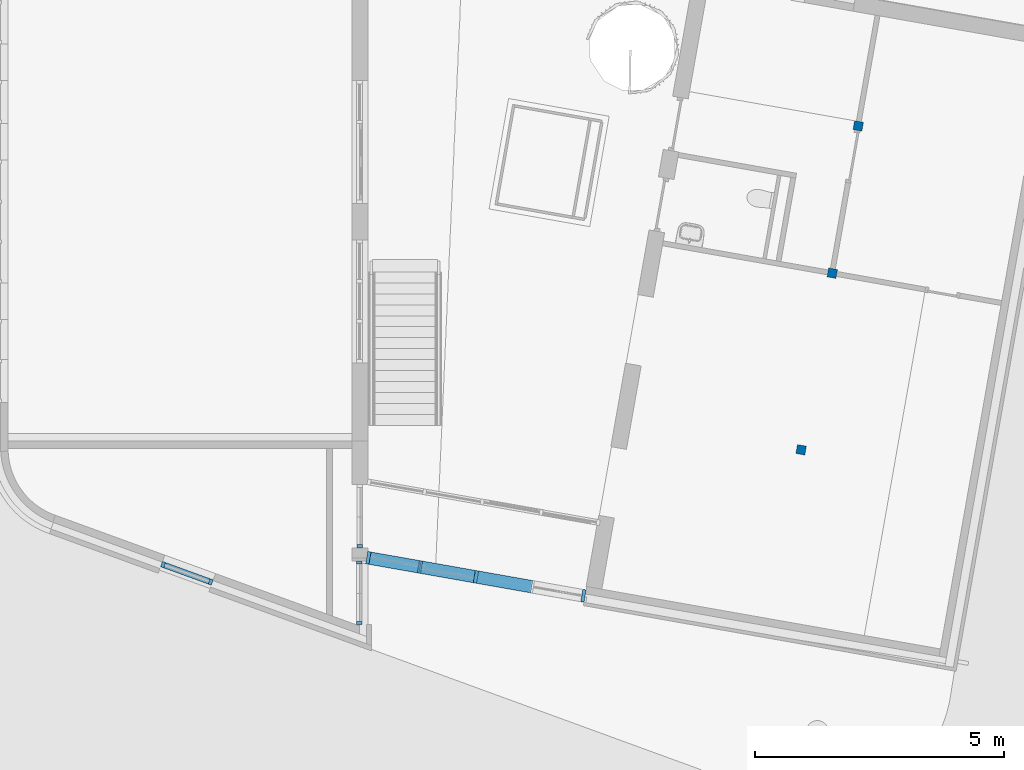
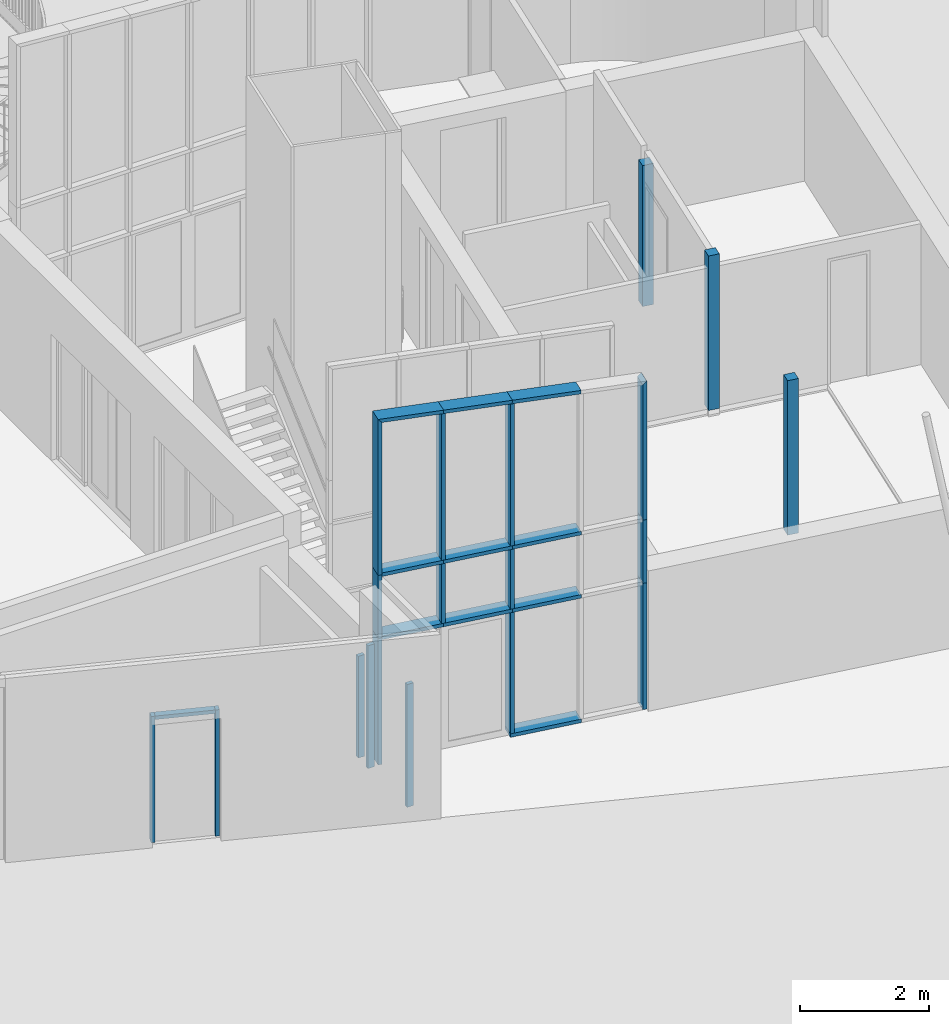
# One storey, part 1 of 21: 27 members, 3 columns, 4 elements without a shape of their own.
"""IFC2X3 building model written with IfcOpenShell, lengths in millimetres."""

from ifc_helpers import new_model, entity, si_unit, converted_unit, derived_unit, direction, frame, frame_2d, origin, origin_2d_with_axis, place, context, subcontext, project, spatial, polyline, rectangle, extrude, clip, halfspace, bounded_halfspace, source, transform, mapped, material, type_object, type_shapes, element, aggregate, save


model = new_model("IFC2X3")

# Units and contexts
model_context = context("Model", 3, precision=0.01, world=origin(), true_north=direction((6.12303176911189e-17, 1.0)))
body_context = subcontext(model_context, "Body", "Model", "MODEL_VIEW")
ifc_project = project(units=[si_unit("LENGTHUNIT", "METRE", prefix="MILLI"), si_unit("AREAUNIT", "SQUARE_METRE"), si_unit("VOLUMEUNIT", "CUBIC_METRE"), converted_unit("PLANEANGLEUNIT", "DEGREE", entity("IfcRatioMeasure", 0.0174532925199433), si_unit("PLANEANGLEUNIT", "RADIAN"), dimensions=[0, 0, 0, 0, 0, 0, 0]), si_unit("MASSUNIT", "GRAM", prefix="KILO"), derived_unit("MASSDENSITYUNIT", [(si_unit("MASSUNIT", "GRAM", prefix="KILO"), 1), (si_unit("LENGTHUNIT", "METRE"), -3)]), derived_unit("MOMENTOFINERTIAUNIT", [(si_unit("LENGTHUNIT", "METRE"), 4)]), si_unit("TIMEUNIT", "SECOND"), si_unit("FREQUENCYUNIT", "HERTZ"), si_unit("THERMODYNAMICTEMPERATUREUNIT", "DEGREE_CELSIUS"), derived_unit("THERMALTRANSMITTANCEUNIT", [(si_unit("MASSUNIT", "GRAM", prefix="KILO"), 1), (si_unit("THERMODYNAMICTEMPERATUREUNIT", "KELVIN"), -1), (si_unit("TIMEUNIT", "SECOND"), -3)]), derived_unit("VOLUMETRICFLOWRATEUNIT", [(si_unit("LENGTHUNIT", "METRE"), 3), (si_unit("TIMEUNIT", "SECOND"), -1)]), si_unit("ELECTRICCURRENTUNIT", "AMPERE"), si_unit("ELECTRICVOLTAGEUNIT", "VOLT"), si_unit("POWERUNIT", "WATT"), si_unit("FORCEUNIT", "NEWTON", prefix="KILO"), si_unit("ILLUMINANCEUNIT", "LUX"), si_unit("LUMINOUSFLUXUNIT", "LUMEN"), si_unit("LUMINOUSINTENSITYUNIT", "CANDELA"), derived_unit("USERDEFINED", [(si_unit("MASSUNIT", "GRAM", prefix="KILO"), -1), (si_unit("LENGTHUNIT", "METRE"), -2), (si_unit("TIMEUNIT", "SECOND"), 3), (si_unit("LUMINOUSFLUXUNIT", "LUMEN"), 1)]), derived_unit("LINEARVELOCITYUNIT", [(si_unit("LENGTHUNIT", "METRE"), 1), (si_unit("TIMEUNIT", "SECOND"), -1)]), si_unit("PRESSUREUNIT", "PASCAL"), derived_unit("USERDEFINED", [(si_unit("LENGTHUNIT", "METRE"), -2), (si_unit("MASSUNIT", "GRAM", prefix="KILO"), 1), (si_unit("TIMEUNIT", "SECOND"), -2)]), derived_unit("LINEARFORCEUNIT", [(si_unit("MASSUNIT", "GRAM", prefix="KILO"), 1), (si_unit("LENGTHUNIT", "METRE"), 1), (si_unit("TIMEUNIT", "SECOND"), -2), (si_unit("LENGTHUNIT", "METRE"), -1)]), derived_unit("PLANARFORCEUNIT", [(si_unit("MASSUNIT", "GRAM", prefix="KILO"), 1), (si_unit("LENGTHUNIT", "METRE"), 1), (si_unit("TIMEUNIT", "SECOND"), -2), (si_unit("LENGTHUNIT", "METRE"), -2)])], contexts=[model_context])

# Site, building, storey
site_placement = place(None, origin())
site = spatial("IfcSite", under=ifc_project, at=site_placement, Name="<Kadaster Gemeente>;<Kadaster nummer>;<Kadaster sectie>", CompositionType="ELEMENT")
building_placement = place(site_placement, origin())
building = spatial("IfcBuilding", under=site, at=building_placement, Name="JRCZ Middelburg", CompositionType="ELEMENT")
storey_placement = place(building_placement, origin())
storey = spatial("IfcBuildingStorey", under=building, at=storey_placement, Name="00 begane grond", CompositionType="ELEMENT", Elevation=0.0)

# Columns
ifc_material_1 = material(Name="Softwood, Lumber")
column_type_1 = type_object("IfcColumnType", Name="M_Timber-Column:180x180", PredefinedType="COLUMN", material=ifc_material_1)
shared_shape_1 = source(origin(), body_context, "Body", "SweptSolid", [
    extrude(rectangle(XDim=179.999999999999, YDim=180.0, at=frame_2d((-5.25801624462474e-13, -9.2370555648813e-14), x_axis=(1.0, 0.0))), frame((26065.8161517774, 9819.7630392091, 0.0), z_axis=(0.0, 0.0, 1.0), x_axis=(0.173648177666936, 0.984807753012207, 0.0)), (0.0, 0.0, 1.0), 2936.0),
])
type_shapes(column_type_1, [shared_shape_1])
column_1_placement = place(storey_placement, origin())
element("IfcColumn", 1, at=column_1_placement, inside=storey, type_object=column_type_1, material=ifc_material_1, Name="M_Timber-Column:180x180", ObjectType="M_Timber-Column:180x180", context=body_context, shape_type="MappedRepresentation", body=[
    mapped(shared_shape_1, transform((0.0, 0.0, 0.0), scale=1.0)),
])
column_type_2 = type_object("IfcColumnType", Name="M_Timber-Column:180x180", PredefinedType="COLUMN", material=ifc_material_1)
shared_shape_2 = source(origin(), body_context, "Body", "SweptSolid", [
    extrude(rectangle(XDim=179.999999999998, YDim=180.0, at=frame_2d((7.53175299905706e-13, -4.2632564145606e-12), x_axis=(1.0, 0.0))), frame((26690.9495913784, 13365.070950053, 0.0), z_axis=(0.0, 0.0, 1.0), x_axis=(0.173648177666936, 0.984807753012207, 0.0)), (0.0, 0.0, 1.0), 2936.0),
])
type_shapes(column_type_2, [shared_shape_2])
column_2_placement = place(storey_placement, origin())
element("IfcColumn", 2, at=column_2_placement, inside=storey, type_object=column_type_2, material=ifc_material_1, Name="M_Timber-Column:180x180", ObjectType="M_Timber-Column:180x180", context=body_context, shape_type="MappedRepresentation", body=[
    mapped(shared_shape_2, transform((0.0, 0.0, 0.0), scale=1.0)),
])
column_type_3 = type_object("IfcColumnType", Name="M_Timber-Column:180x180", PredefinedType="COLUMN", material=ifc_material_1)
shared_shape_3 = source(origin(), body_context, "Body", "SweptSolid", [
    extrude(rectangle(XDim=180.0, YDim=180.0, at=origin_2d_with_axis()), frame((0.0, 0.0, 0.0), z_axis=(0.0, 0.0, 1.0), x_axis=(0.0, -1.0, 0.0)), (0.0, 0.0, 1.0), 2680.0),
])
type_shapes(column_type_3, [shared_shape_3])
column_3_placement = place(storey_placement, frame((27211.8941243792, 16319.4942090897, 0.0), z_axis=(0.0, 0.0, 1.0), x_axis=(0.984807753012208, -0.173648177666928, 0.0)))
element("IfcColumn", 3, at=column_3_placement, inside=storey, type_object=column_type_3, material=ifc_material_1, Name="M_Timber-Column:180x180", ObjectType="M_Timber-Column:180x180", context=body_context, shape_type="MappedRepresentation", body=[
    mapped(shared_shape_3, transform((0.0, 0.0, 0.0), scale=1.0)),
])

# Curtain wall, members
curtain_wall_type_1 = type_object("IfcCurtainWallType", Name="Curtain Wall:vliesgevel A", PredefinedType="NOTDEFINED")
curtain_wall_1_placement = place(storey_placement, origin())
curtain_wall_1 = element("IfcCurtainWall", 4, at=curtain_wall_1_placement, inside=storey, type_object=curtain_wall_type_1, Name="Curtain Wall:vliesgevel A", ObjectType="Curtain Wall:vliesgevel A")
ifc_material_2 = material(Name="RBM_a_kozijn licht")
member_type_1 = type_object("IfcMemberType", Name="Rectangular Mullion:31_CWM_067x114 vliesgevel", PredefinedType="MULLION", material=ifc_material_2)
shared_shape_4 = source(origin(), body_context, "Body", "Clipping", [
    clip(extrude(rectangle(XDim=250.0, YDim=67.0, at=origin_2d_with_axis()), frame((-33.5, -57.0, -1088.68658802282), z_axis=(0.0, 0.0, 1.0), x_axis=(0.0, -1.0, 0.0)), (0.0, 0.0, 1.0), 1088.68658802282), halfspace(frame((0.0, -304.8, 0.0), z_axis=(-0.733072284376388, 0.0, 0.680150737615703), x_axis=(-0.680150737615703, 0.0, -0.733072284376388)), False)),
])
type_shapes(member_type_1, [shared_shape_4])
member_1_placement = place(storey_placement, frame((17357.3594801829, 7712.96365390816, 6564.57479505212), z_axis=(-0.982049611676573, 0.173161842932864, 0.0747899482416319), x_axis=(0.0736537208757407, -0.0129871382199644, 0.997199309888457)))
member_1 = element("IfcMember", 5, at=member_1_placement, type_object=member_type_1, material=ifc_material_2, Name="Rectangular Mullion:31_CWM_067x114 vliesgevel", ObjectType="Rectangular Mullion:31_CWM_067x114 vliesgevel", context=body_context, shape_type="MappedRepresentation", body=[
    mapped(shared_shape_4, transform((0.0, 0.0, 0.0), scale=1.0)),
])
member_type_2 = type_object("IfcMemberType", Name="Rectangular Mullion:31_CWM_067x114 vliesgevel", PredefinedType="MULLION", material=ifc_material_2)
shared_shape_5 = source(origin(), body_context, "Body", "SweptSolid", [
    extrude(rectangle(XDim=250.0, YDim=67.0, at=origin_2d_with_axis()), frame((-33.5, -57.0, -2400.0), z_axis=(0.0, 0.0, 1.0), x_axis=(0.0, -1.0, 0.0)), (0.0, 0.0, 1.0), 2400.0),
])
type_shapes(member_type_2, [shared_shape_5])
member_2_placement = place(storey_placement, frame((17357.3594801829, 7712.96365390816, 0.0), z_axis=(0.0, 0.0, -1.0), x_axis=(-0.984807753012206, 0.173648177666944, 0.0)))
member_2 = element("IfcMember", 6, at=member_2_placement, type_object=member_type_2, material=ifc_material_2, Name="Rectangular Mullion:31_CWM_067x114 vliesgevel", ObjectType="Rectangular Mullion:31_CWM_067x114 vliesgevel", context=body_context, shape_type="MappedRepresentation", body=[
    mapped(shared_shape_5, transform((0.0, 0.0, 0.0), scale=1.0)),
])
member_type_3 = type_object("IfcMemberType", Name="Rectangular Mullion:31_CWM_067x114 vliesgevel", PredefinedType="MULLION", material=ifc_material_2)
shared_shape_6 = source(origin(), body_context, "Body", "Clipping", [
    clip(extrude(rectangle(XDim=250.0, YDim=67.0, at=origin_2d_with_axis()), frame((-33.5, -57.0, -2630.80126207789), z_axis=(0.0, 0.0, 1.0), x_axis=(0.0, -1.0, 0.0)), (0.0, 0.0, 1.0), 2630.80126207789), halfspace(frame((0.0, -304.8, 0.0), z_axis=(-0.680150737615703, 0.0, 0.733072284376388), x_axis=(-0.733072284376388, 0.0, -0.680150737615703)), False)),
])
type_shapes(member_type_3, [shared_shape_6])
member_3_placement = place(storey_placement, frame((21740.0629871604, 6940.17477718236, 6230.80126207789), z_axis=(0.0, 0.0, 1.0), x_axis=(0.984807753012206, -0.173648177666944, 0.0)))
member_3 = element("IfcMember", 7, at=member_3_placement, type_object=member_type_3, material=ifc_material_2, Name="Rectangular Mullion:31_CWM_067x114 vliesgevel", ObjectType="Rectangular Mullion:31_CWM_067x114 vliesgevel", context=body_context, shape_type="MappedRepresentation", body=[
    mapped(shared_shape_6, transform((0.0, 0.0, 0.0), scale=1.0)),
])
member_type_4 = type_object("IfcMemberType", Name="Rectangular Mullion:31_CWM_067x114 vliesgevel", PredefinedType="MULLION", material=ifc_material_2)
shared_shape_7 = source(origin(), body_context, "Body", "SweptSolid", [
    extrude(rectangle(XDim=250.0, YDim=67.0, at=origin_2d_with_axis()), frame((-33.5, -57.0, -1142.75926748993), z_axis=(0.0, 0.0, 1.0), x_axis=(0.0, -1.0, 0.0)), (0.0, 0.0, 1.0), 1142.75926748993),
])
type_shapes(member_type_4, [shared_shape_7])
member_4_placement = place(storey_placement, frame((19548.7500160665, 7326.56237716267, 6397.68507501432), z_axis=(-0.982049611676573, 0.173161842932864, 0.0747899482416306), x_axis=(0.0736537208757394, -0.0129871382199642, 0.997199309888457)))
member_4 = element("IfcMember", 8, at=member_4_placement, type_object=member_type_4, material=ifc_material_2, Name="Rectangular Mullion:31_CWM_067x114 vliesgevel", ObjectType="Rectangular Mullion:31_CWM_067x114 vliesgevel", context=body_context, shape_type="MappedRepresentation", body=[
    mapped(shared_shape_7, transform((0.0, 0.0, 0.0), scale=1.0)),
])
member_type_5 = type_object("IfcMemberType", Name="Rectangular Mullion:31_CWM_067x114 vliesgevel", PredefinedType="MULLION", material=ifc_material_2)
shared_shape_8 = source(origin(), body_context, "Body", "SweptSolid", [
    extrude(rectangle(XDim=250.0, YDim=67.0, at=origin_2d_with_axis()), frame((0.0, -57.0, -2299.5), z_axis=(0.0, 0.0, 1.0), x_axis=(0.0, -1.0, 0.0)), (0.0, 0.0, 1.0), 2299.5),
])
type_shapes(member_type_5, [shared_shape_8])
member_5_placement = place(storey_placement, frame((19548.7500160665, 7326.56237716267, 67.0), z_axis=(0.0, 0.0, -1.0), x_axis=(-0.984807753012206, 0.173648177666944, 0.0)))
member_5 = element("IfcMember", 9, at=member_5_placement, type_object=member_type_5, material=ifc_material_2, Name="Rectangular Mullion:31_CWM_067x114 vliesgevel", ObjectType="Rectangular Mullion:31_CWM_067x114 vliesgevel", context=body_context, shape_type="MappedRepresentation", body=[
    mapped(shared_shape_8, transform((0.0, 0.0, 0.0), scale=1.0)),
])
member_type_6 = type_object("IfcMemberType", Name="Rectangular Mullion:31_CWM_067x114 vliesgevel", PredefinedType="MULLION", material=ifc_material_2)
shared_shape_9 = source(origin(), body_context, "Body", "SweptSolid", [
    extrude(rectangle(XDim=250.0, YDim=67.0, at=origin_2d_with_axis()), frame((-33.5, -57.0, -1142.75926748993), z_axis=(0.0, 0.0, 1.0), x_axis=(0.0, -1.0, 0.0)), (0.0, 0.0, 1.0), 1142.75926748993),
])
type_shapes(member_type_6, [shared_shape_9])
member_6_placement = place(storey_placement, frame((18426.5037211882, 7524.44467794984, 6483.15198148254), z_axis=(-0.982049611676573, 0.173161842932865, 0.0747899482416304), x_axis=(0.0736537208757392, -0.0129871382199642, 0.997199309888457)))
member_6 = element("IfcMember", 10, at=member_6_placement, type_object=member_type_6, material=ifc_material_2, Name="Rectangular Mullion:31_CWM_067x114 vliesgevel", ObjectType="Rectangular Mullion:31_CWM_067x114 vliesgevel", context=body_context, shape_type="MappedRepresentation", body=[
    mapped(shared_shape_9, transform((0.0, 0.0, 0.0), scale=1.0)),
])
member_type_7 = type_object("IfcMemberType", Name="Rectangular Mullion:31_CWM_067x114 vliesgevel", PredefinedType="MULLION", material=ifc_material_2)
shared_shape_10 = source(origin(), body_context, "Body", "SweptSolid", [
    extrude(rectangle(XDim=250.0, YDim=67.0, at=origin_2d_with_axis()), frame((-33.5, -57.0, -1173.05875290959), z_axis=(0.0, 0.0, 1.0), x_axis=(0.0, -1.0, 0.0)), (0.0, 0.0, 1.0), 1173.05875290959),
])
type_shapes(member_type_7, [shared_shape_10])
member_7_placement = place(storey_placement, frame((20670.9963109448, 7128.68007637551, 0.0), z_axis=(0.984807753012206, -0.173648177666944, 0.0), x_axis=(0.0, 0.0, -1.0)))
member_7 = element("IfcMember", 11, at=member_7_placement, type_object=member_type_7, material=ifc_material_2, Name="Rectangular Mullion:31_CWM_067x114 vliesgevel", ObjectType="Rectangular Mullion:31_CWM_067x114 vliesgevel", context=body_context, shape_type="MappedRepresentation", body=[
    mapped(shared_shape_10, transform((0.0, 0.0, 0.0), scale=1.0)),
])
member_type_8 = type_object("IfcMemberType", Name="Rectangular Mullion:31_CWM_067x114 vliesgevel", PredefinedType="MULLION", material=ifc_material_2)
shared_shape_11 = source(origin(), body_context, "Body", "SweptSolid", [
    extrude(rectangle(XDim=250.0, YDim=67.0, at=origin_2d_with_axis()), frame((-33.5, -57.0, -1200.0), z_axis=(0.0, 0.0, 1.0), x_axis=(0.0, -1.0, 0.0)), (0.0, 0.0, 1.0), 1200.0),
])
type_shapes(member_type_8, [shared_shape_11])
member_8_placement = place(storey_placement, frame((17357.3594801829, 7712.96365390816, 2400.0), z_axis=(0.0, 0.0, -1.0), x_axis=(-0.984807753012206, 0.173648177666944, 0.0)))
member_8 = element("IfcMember", 12, at=member_8_placement, type_object=member_type_8, material=ifc_material_2, Name="Rectangular Mullion:31_CWM_067x114 vliesgevel", ObjectType="Rectangular Mullion:31_CWM_067x114 vliesgevel", context=body_context, shape_type="MappedRepresentation", body=[
    mapped(shared_shape_11, transform((0.0, 0.0, 0.0), scale=1.0)),
])
member_type_9 = type_object("IfcMemberType", Name="Rectangular Mullion:31_CWM_067x114 vliesgevel", PredefinedType="MULLION", material=ifc_material_2)
shared_shape_12 = source(origin(), body_context, "Body", "SweptSolid", [
    extrude(rectangle(XDim=250.0, YDim=67.0, at=origin_2d_with_axis()), frame((-33.5, -57.0, -2400.0), z_axis=(0.0, 0.0, 1.0), x_axis=(0.0, -1.0, 0.0)), (0.0, 0.0, 1.0), 2400.0),
])
type_shapes(member_type_9, [shared_shape_12])
member_9_placement = place(storey_placement, frame((21740.0629871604, 6940.17477718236, 2400.0), z_axis=(0.0, 0.0, 1.0), x_axis=(0.984807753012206, -0.173648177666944, 0.0)))
member_9 = element("IfcMember", 13, at=member_9_placement, type_object=member_type_9, material=ifc_material_2, Name="Rectangular Mullion:31_CWM_067x114 vliesgevel", ObjectType="Rectangular Mullion:31_CWM_067x114 vliesgevel", context=body_context, shape_type="MappedRepresentation", body=[
    mapped(shared_shape_12, transform((0.0, 0.0, 0.0), scale=1.0)),
])
member_type_10 = type_object("IfcMemberType", Name="Rectangular Mullion:31_CWM_067x114 vliesgevel", PredefinedType="MULLION", material=ifc_material_2)
shared_shape_13 = source(origin(), body_context, "Body", "SweptSolid", [
    extrude(rectangle(XDim=250.0, YDim=67.0, at=origin_2d_with_axis()), frame((0.0, -57.0, -1139.55875290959), z_axis=(0.0, 0.0, 1.0), x_axis=(0.0, -1.0, 0.0)), (0.0, 0.0, 1.0), 1139.55875290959),
])
type_shapes(member_type_10, [shared_shape_13])
member_10_placement = place(storey_placement, frame((19548.7500160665, 7326.56237716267, 2400.0), z_axis=(-0.984807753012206, 0.173648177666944, 0.0), x_axis=(0.0, 0.0, 1.0)))
member_10 = element("IfcMember", 14, at=member_10_placement, type_object=member_type_10, material=ifc_material_2, Name="Rectangular Mullion:31_CWM_067x114 vliesgevel", ObjectType="Rectangular Mullion:31_CWM_067x114 vliesgevel", context=body_context, shape_type="MappedRepresentation", body=[
    mapped(shared_shape_13, transform((0.0, 0.0, 0.0), scale=1.0)),
])
member_11_placement = place(storey_placement, frame((18426.5037211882, 7524.44467794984, 2400.0), z_axis=(-0.984807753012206, 0.173648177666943, 0.0), x_axis=(0.0, 0.0, 1.0)))
member_11 = element("IfcMember", 15, at=member_11_placement, type_object=member_type_10, material=ifc_material_2, Name="Rectangular Mullion:31_CWM_067x114 vliesgevel", ObjectType="Rectangular Mullion:31_CWM_067x114 vliesgevel", context=body_context, shape_type="MappedRepresentation", body=[
    mapped(shared_shape_13, transform((0.0, 0.0, 0.0), scale=1.0)),
])
member_12_placement = place(storey_placement, frame((19548.7500160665, 7326.56237716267, 3600.0), z_axis=(-0.984807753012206, 0.173648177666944, 0.0), x_axis=(0.0, 0.0, 1.0)))
member_12 = element("IfcMember", 16, at=member_12_placement, type_object=member_type_10, material=ifc_material_2, Name="Rectangular Mullion:31_CWM_067x114 vliesgevel", ObjectType="Rectangular Mullion:31_CWM_067x114 vliesgevel", context=body_context, shape_type="MappedRepresentation", body=[
    mapped(shared_shape_13, transform((0.0, 0.0, 0.0), scale=1.0)),
])
member_13_placement = place(storey_placement, frame((18426.5037211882, 7524.44467794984, 3600.0), z_axis=(-0.984807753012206, 0.173648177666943, 0.0), x_axis=(0.0, 0.0, 1.0)))
member_13 = element("IfcMember", 17, at=member_13_placement, type_object=member_type_10, material=ifc_material_2, Name="Rectangular Mullion:31_CWM_067x114 vliesgevel", ObjectType="Rectangular Mullion:31_CWM_067x114 vliesgevel", context=body_context, shape_type="MappedRepresentation", body=[
    mapped(shared_shape_13, transform((0.0, 0.0, 0.0), scale=1.0)),
])
member_type_11 = type_object("IfcMemberType", Name="Rectangular Mullion:31_CWM_067x114 vliesgevel", PredefinedType="MULLION", material=ifc_material_2)
shared_shape_14 = source(origin(), body_context, "Body", "SweptSolid", [
    extrude(rectangle(XDim=250.0, YDim=67.0, at=frame_2d((-3.5527136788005e-14, 0.0), x_axis=(1.0, 0.0))), frame((0.0, -57.0, -1018.63751426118), z_axis=(0.0, 0.0, 1.0), x_axis=(0.0, -1.0, 0.0)), (0.0, 0.0, 1.0), 1018.63751426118),
])
type_shapes(member_type_11, [shared_shape_14])
member_14_placement = place(storey_placement, frame((17423.3415996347, 7701.32922600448, 2400.0), z_axis=(-0.984807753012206, 0.173648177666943, 0.0), x_axis=(0.0, 0.0, 1.0)))
member_14 = element("IfcMember", 18, at=member_14_placement, type_object=member_type_11, material=ifc_material_2, Name="Rectangular Mullion:31_CWM_067x114 vliesgevel", ObjectType="Rectangular Mullion:31_CWM_067x114 vliesgevel", context=body_context, shape_type="MappedRepresentation", body=[
    mapped(shared_shape_14, transform((0.0, 0.0, 0.0), scale=1.0)),
])
member_15_placement = place(storey_placement, frame((17423.3415996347, 7701.32922600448, 3600.0), z_axis=(-0.984807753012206, 0.173648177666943, 0.0), x_axis=(0.0, 0.0, 1.0)))
member_15 = element("IfcMember", 19, at=member_15_placement, type_object=member_type_11, material=ifc_material_2, Name="Rectangular Mullion:31_CWM_067x114 vliesgevel", ObjectType="Rectangular Mullion:31_CWM_067x114 vliesgevel", context=body_context, shape_type="MappedRepresentation", body=[
    mapped(shared_shape_14, transform((0.0, 0.0, 0.0), scale=1.0)),
])
member_type_12 = type_object("IfcMemberType", Name="Rectangular Mullion:31_CWM_067x114 vliesgevel", PredefinedType="MULLION", material=ifc_material_2)
shared_shape_15 = source(origin(), body_context, "Body", "SweptSolid", [
    extrude(rectangle(XDim=250.0, YDim=67.0, at=origin_2d_with_axis()), frame((0.0, -57.0, -1133.0), z_axis=(0.0, 0.0, 1.0), x_axis=(0.0, -1.0, 0.0)), (0.0, 0.0, 1.0), 1133.0),
])
type_shapes(member_type_12, [shared_shape_15])
member_16_placement = place(storey_placement, frame((19548.7500160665, 7326.56237716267, 2433.5), z_axis=(0.0, 0.0, -1.0), x_axis=(-0.984807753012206, 0.173648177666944, 0.0)))
member_16 = element("IfcMember", 20, at=member_16_placement, type_object=member_type_12, material=ifc_material_2, Name="Rectangular Mullion:31_CWM_067x114 vliesgevel", ObjectType="Rectangular Mullion:31_CWM_067x114 vliesgevel", context=body_context, shape_type="MappedRepresentation", body=[
    mapped(shared_shape_15, transform((0.0, 0.0, 0.0), scale=1.0)),
])
member_17_placement = place(storey_placement, frame((18426.5037211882, 7524.44467794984, 2433.5), z_axis=(0.0, 0.0, -1.0), x_axis=(-0.984807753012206, 0.173648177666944, 0.0)))
member_17 = element("IfcMember", 21, at=member_17_placement, type_object=member_type_12, material=ifc_material_2, Name="Rectangular Mullion:31_CWM_067x114 vliesgevel", ObjectType="Rectangular Mullion:31_CWM_067x114 vliesgevel", context=body_context, shape_type="MappedRepresentation", body=[
    mapped(shared_shape_15, transform((0.0, 0.0, 0.0), scale=1.0)),
])
member_type_13 = type_object("IfcMemberType", Name="Rectangular Mullion:31_CWM_067x114 vliesgevel", PredefinedType="MULLION", material=ifc_material_2)
shared_shape_16 = source(origin(), body_context, "Body", "Clipping", [
    clip(extrude(rectangle(XDim=250.0, YDim=67.0, at=origin_2d_with_axis()), frame((-33.5, -57.0, -2964.57479505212), z_axis=(0.0, 0.0, 1.0), x_axis=(0.0, -1.0, 0.0)), (0.0, 0.0, 1.0), 2964.57479505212), halfspace(frame((0.0, -304.8, -2964.57479505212), z_axis=(-0.733072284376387, 0.0, -0.680150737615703), x_axis=(-0.680150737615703, 0.0, 0.733072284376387)), False)),
])
type_shapes(member_type_13, [shared_shape_16])
member_18_placement = place(storey_placement, frame((17357.3594801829, 7712.96365390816, 3600.0), z_axis=(0.0, 0.0, -1.0), x_axis=(-0.984807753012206, 0.173648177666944, 0.0)))
member_18 = element("IfcMember", 22, at=member_18_placement, type_object=member_type_13, material=ifc_material_2, Name="Rectangular Mullion:31_CWM_067x114 vliesgevel", ObjectType="Rectangular Mullion:31_CWM_067x114 vliesgevel", context=body_context, shape_type="MappedRepresentation", body=[
    mapped(shared_shape_16, transform((0.0, 0.0, 0.0), scale=1.0)),
])
member_type_14 = type_object("IfcMemberType", Name="Rectangular Mullion:31_CWM_067x114 vliesgevel", PredefinedType="MULLION", material=ifc_material_2)
shared_shape_17 = source(origin(), body_context, "Body", "SweptSolid", [
    extrude(rectangle(XDim=250.0, YDim=67.0, at=origin_2d_with_axis()), frame((-33.5, -57.0, -1200.0), z_axis=(0.0, 0.0, 1.0), x_axis=(0.0, -1.0, 0.0)), (0.0, 0.0, 1.0), 1200.0),
])
type_shapes(member_type_14, [shared_shape_17])
member_19_placement = place(storey_placement, frame((21740.0629871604, 6940.17477718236, 3600.0), z_axis=(0.0, 0.0, 1.0), x_axis=(0.984807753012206, -0.173648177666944, 0.0)))
member_19 = element("IfcMember", 23, at=member_19_placement, type_object=member_type_14, material=ifc_material_2, Name="Rectangular Mullion:31_CWM_067x114 vliesgevel", ObjectType="Rectangular Mullion:31_CWM_067x114 vliesgevel", context=body_context, shape_type="MappedRepresentation", body=[
    mapped(shared_shape_17, transform((0.0, 0.0, 0.0), scale=1.0)),
])
member_type_15 = type_object("IfcMemberType", Name="Rectangular Mullion:31_CWM_067x114 vliesgevel", PredefinedType="MULLION", material=ifc_material_2)
shared_shape_18 = source(origin(), body_context, "Body", "Clipping", [
    clip(clip(extrude(rectangle(XDim=250.0, YDim=67.0, at=origin_2d_with_axis()), frame((0.0, -57.0, -2699.50940176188), z_axis=(0.0, 0.0, 1.0), x_axis=(0.0, -1.0, 0.0)), (0.0, 0.0, 1.0), 2699.50940176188), bounded_halfspace(frame((1144.56967944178, 68.0, -2782.83962772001), z_axis=(-0.0747899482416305, 0.0, -0.997199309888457), x_axis=(-0.997199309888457, 0.0, 0.0747899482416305)), False, frame((0.0, -57.0, -2699.50940176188), z_axis=(0.0, 0.0, 1.0), x_axis=(0.0, -1.0, 0.0)), polyline([(-125.0, 33.5), (125.0, 33.5), (125.0, 5.01092653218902), (-125.0, 5.01092653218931), (-125.0, 33.5)]))), bounded_halfspace(frame((5.01092653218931, 68.0, -2697.3727212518), z_axis=(-0.0747899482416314, 0.0, -0.997199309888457), x_axis=(-0.997199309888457, 0.0, 0.0747899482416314)), False, frame((0.0, -57.0, -2699.50940176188), z_axis=(0.0, 0.0, 1.0), x_axis=(0.0, -1.0, 0.0)), polyline([(125.0, 5.01092653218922), (125.0, -33.5), (-125.0, -33.5), (-125.0, 5.01092653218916), (125.0, 5.01092653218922)]))),
])
type_shapes(member_type_15, [shared_shape_18])
member_20_placement = place(storey_placement, frame((19548.7500160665, 7326.56237716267, 3633.5), z_axis=(0.0, 0.0, -1.0), x_axis=(-0.984807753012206, 0.173648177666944, 0.0)))
member_20 = element("IfcMember", 24, at=member_20_placement, type_object=member_type_15, material=ifc_material_2, Name="Rectangular Mullion:31_CWM_067x114 vliesgevel", ObjectType="Rectangular Mullion:31_CWM_067x114 vliesgevel", context=body_context, shape_type="MappedRepresentation", body=[
    mapped(shared_shape_18, transform((0.0, 0.0, 0.0), scale=1.0)),
])
member_type_16 = type_object("IfcMemberType", Name="Rectangular Mullion:31_CWM_067x114 vliesgevel", PredefinedType="MULLION", material=ifc_material_2)
shared_shape_19 = source(origin(), body_context, "Body", "Clipping", [
    clip(clip(extrude(rectangle(XDim=250.0, YDim=67.0, at=origin_2d_with_axis()), frame((0.0, -57.0, -2784.9763082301), z_axis=(0.0, 0.0, 1.0), x_axis=(0.0, -1.0, 0.0)), (0.0, 0.0, 1.0), 2784.9763082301), bounded_halfspace(frame((1090.64844079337, 68.0, -2864.2624412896), z_axis=(-0.0747899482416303, 0.0, -0.997199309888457), x_axis=(-0.997199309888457, 0.0, 0.0747899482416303)), False, frame((0.0, -57.0, -2784.9763082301), z_axis=(0.0, 0.0, 1.0), x_axis=(0.0, -1.0, 0.0)), polyline([(-125.0, 33.5), (125.0, 33.5), (125.0, 5.01092653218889), (-125.0, 5.01092653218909), (-125.0, 33.5)]))), bounded_halfspace(frame((5.01092653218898, 68.0, -2782.83962772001), z_axis=(-0.0747899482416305, 0.0, -0.997199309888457), x_axis=(-0.997199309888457, 0.0, 0.0747899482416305)), False, frame((0.0, -57.0, -2784.9763082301), z_axis=(0.0, 0.0, 1.0), x_axis=(0.0, -1.0, 0.0)), polyline([(125.0, 5.01092653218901), (125.0, -33.5), (-125.0, -33.5), (-125.0, 5.01092653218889), (125.0, 5.01092653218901)]))),
])
type_shapes(member_type_16, [shared_shape_19])
member_21_placement = place(storey_placement, frame((18426.5037211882, 7524.44467794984, 3633.5), z_axis=(0.0, 0.0, -1.0), x_axis=(-0.984807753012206, 0.173648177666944, 0.0)))
member_21 = element("IfcMember", 25, at=member_21_placement, type_object=member_type_16, material=ifc_material_2, Name="Rectangular Mullion:31_CWM_067x114 vliesgevel", ObjectType="Rectangular Mullion:31_CWM_067x114 vliesgevel", context=body_context, shape_type="MappedRepresentation", body=[
    mapped(shared_shape_19, transform((0.0, 0.0, 0.0), scale=1.0)),
])
aggregate(curtain_wall_1, [member_1, member_2, member_3, member_4, member_5, member_6, member_7, member_8, member_9, member_10, member_11, member_14, member_16, member_17, member_18, member_19, member_12, member_13, member_15, member_20, member_21])

# Curtain wall, member
curtain_wall_type_2 = type_object("IfcCurtainWallType", Name="Curtain Wall:NLRS_32_CW_067x114", PredefinedType="NOTDEFINED")
curtain_wall_2_placement = place(storey_placement, origin())
curtain_wall_2 = element("IfcCurtainWall", 26, at=curtain_wall_2_placement, inside=storey, type_object=curtain_wall_type_2, Name="Curtain Wall:NLRS_32_CW_067x114", ObjectType="Curtain Wall:NLRS_32_CW_067x114")
ifc_material_3 = material(Name="RBM_i2_binnenkozijn")
member_type_17 = type_object("IfcMemberType", Name="Rectangular Mullion:32_CWM_067x114", PredefinedType="MULLION", material=ifc_material_3)
shared_shape_20 = source(origin(), body_context, "Body", "SweptSolid", [
    extrude(rectangle(XDim=113.999999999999, YDim=67.0, at=origin_2d_with_axis()), frame((-33.5, 0.0, -2333.0), z_axis=(0.0, 0.0, 1.0), x_axis=(0.0, -1.0, 0.0)), (0.0, 0.0, 1.0), 2333.0),
])
type_shapes(member_type_17, [shared_shape_20])
member_22_placement = place(storey_placement, frame((17200.0, 6311.96216345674, 2333.0), z_axis=(0.0, 0.0, 1.0), x_axis=(0.0, -1.0, 0.0)))
member_22 = element("IfcMember", 27, at=member_22_placement, type_object=member_type_17, material=ifc_material_3, Name="Rectangular Mullion:32_CWM_067x114", ObjectType="Rectangular Mullion:32_CWM_067x114", context=body_context, shape_type="MappedRepresentation", body=[
    mapped(shared_shape_20, transform((0.0, 0.0, 0.0), scale=1.0)),
])

curtain_wall_type_3 = type_object("IfcCurtainWallType", Name="Curtain Wall:NLRS_32_CW_067x114", PredefinedType="NOTDEFINED")
curtain_wall_3_placement = place(storey_placement, origin())
curtain_wall_3 = element("IfcCurtainWall", 28, at=curtain_wall_3_placement, inside=storey, type_object=curtain_wall_type_3, Name="Curtain Wall:NLRS_32_CW_067x114", ObjectType="Curtain Wall:NLRS_32_CW_067x114")
member_type_18 = type_object("IfcMemberType", Name="Rectangular Mullion:32_CWM_067x114", PredefinedType="MULLION", material=ifc_material_3)
shared_shape_21 = source(origin(), body_context, "Body", "SweptSolid", [
    extrude(rectangle(XDim=113.999999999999, YDim=67.0, at=origin_2d_with_axis()), frame((-33.5, 0.0, -1933.0), z_axis=(0.0, 0.0, 1.0), x_axis=(0.0, -1.0, 0.0)), (0.0, 0.0, 1.0), 1933.0),
])
type_shapes(member_type_18, [shared_shape_21])
member_23_placement = place(storey_placement, frame((17209.2500000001, 7848.74078602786, 1933.0), z_axis=(0.0, 0.0, 1.0), x_axis=(0.0, -1.0, 0.0)))
member_23 = element("IfcMember", 29, at=member_23_placement, type_object=member_type_18, material=ifc_material_3, Name="Rectangular Mullion:32_CWM_067x114", ObjectType="Rectangular Mullion:32_CWM_067x114", context=body_context, shape_type="MappedRepresentation", body=[
    mapped(shared_shape_21, transform((0.0, 0.0, 0.0), scale=1.0)),
])
aggregate(curtain_wall_3, [member_23])

# Member
member_type_19 = type_object("IfcMemberType", Name="Rectangular Mullion:32_CWM_067x114", PredefinedType="MULLION", material=ifc_material_3)
shared_shape_22 = source(origin(), body_context, "Body", "SweptSolid", [
    extrude(rectangle(XDim=113.999999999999, YDim=67.0, at=origin_2d_with_axis()), frame((-33.5, 0.0, -2333.0), z_axis=(0.0, 0.0, 1.0), x_axis=(0.0, -1.0, 0.0)), (0.0, 0.0, 1.0), 2333.0),
])
type_shapes(member_type_19, [shared_shape_22])
member_24_placement = place(storey_placement, frame((17200.0, 7591.96216345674, 0.0), z_axis=(0.0, 0.0, -1.0), x_axis=(0.0, 1.0, 0.0)))
member_24 = element("IfcMember", 30, at=member_24_placement, type_object=member_type_19, material=ifc_material_3, Name="Rectangular Mullion:32_CWM_067x114", ObjectType="Rectangular Mullion:32_CWM_067x114", context=body_context, shape_type="MappedRepresentation", body=[
    mapped(shared_shape_22, transform((0.0, 0.0, 0.0), scale=1.0)),
])

aggregate(curtain_wall_2, [member_24, member_22])

# Curtain wall, members
curtain_wall_type_4 = type_object("IfcCurtainWallType", Name="Curtain Wall:NLRS_31_CW_Ontwerpkozijn 067x114", PredefinedType="NOTDEFINED")
curtain_wall_4_placement = place(storey_placement, origin())
curtain_wall_4 = element("IfcCurtainWall", 31, at=curtain_wall_4_placement, inside=storey, type_object=curtain_wall_type_4, Name="Curtain Wall:NLRS_31_CW_Ontwerpkozijn 067x114", ObjectType="Curtain Wall:NLRS_31_CW_Ontwerpkozijn 067x114")
ifc_material_4 = material(Name="RBM_a_kozijn")
member_type_20 = type_object("IfcMemberType", Name="Rectangular Mullion:31_CWM_067x114", PredefinedType="MULLION", material=ifc_material_4)
shared_shape_23 = source(origin(), body_context, "Body", "SweptSolid", [
    extrude(rectangle(XDim=113.999999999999, YDim=67.0, at=origin_2d_with_axis()), frame((-33.5, 57.0, -950.0), z_axis=(0.0, 0.0, 1.0), x_axis=(0.0, -1.0, 0.0)), (0.0, 0.0, 1.0), 949.999999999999),
])
type_shapes(member_type_20, [shared_shape_23])
member_25_placement = place(storey_placement, frame((14204.9653132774, 7232.42985900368, 2400.0), z_axis=(0.939692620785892, -0.342020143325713, 0.0), x_axis=(0.0, 0.0, 1.0)))
member_25 = element("IfcMember", 32, at=member_25_placement, type_object=member_type_20, material=ifc_material_4, Name="Rectangular Mullion:31_CWM_067x114", ObjectType="Rectangular Mullion:31_CWM_067x114", context=body_context, shape_type="MappedRepresentation", body=[
    mapped(shared_shape_23, transform((0.0, 0.0, 0.0), scale=1.0)),
])
member_type_21 = type_object("IfcMemberType", Name="Rectangular Mullion:31_CWM_067x114", PredefinedType="MULLION", material=ifc_material_4)
shared_shape_24 = source(origin(), body_context, "Body", "SweptSolid", [
    extrude(rectangle(XDim=113.999999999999, YDim=67.0, at=origin_2d_with_axis()), frame((-33.5, 57.0, -2400.0), z_axis=(0.0, 0.0, 1.0), x_axis=(0.0, -1.0, 0.0)), (0.0, 0.0, 1.0), 2400.0),
])
type_shapes(member_type_21, [shared_shape_24])
member_26_placement = place(storey_placement, frame((14267.92471887, 7209.51450940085, 0.0), z_axis=(0.0, 0.0, -1.0), x_axis=(0.939692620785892, -0.342020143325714, 0.0)))
member_26 = element("IfcMember", 33, at=member_26_placement, type_object=member_type_21, material=ifc_material_4, Name="Rectangular Mullion:31_CWM_067x114", ObjectType="Rectangular Mullion:31_CWM_067x114", context=body_context, shape_type="MappedRepresentation", body=[
    mapped(shared_shape_24, transform((0.0, 0.0, 0.0), scale=1.0)),
])
member_type_22 = type_object("IfcMemberType", Name="Rectangular Mullion:31_CWM_067x114", PredefinedType="MULLION", material=ifc_material_4)
shared_shape_25 = source(origin(), body_context, "Body", "SweptSolid", [
    extrude(rectangle(XDim=113.999999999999, YDim=67.0, at=origin_2d_with_axis()), frame((-33.5, 57.0, -2400.0), z_axis=(0.0, 0.0, 1.0), x_axis=(0.0, -1.0, 0.0)), (0.0, 0.0, 1.0), 2400.0),
])
type_shapes(member_type_22, [shared_shape_25])
member_27_placement = place(storey_placement, frame((13249.2979179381, 7580.26434476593, 2400.0), z_axis=(0.0, 0.0, 1.0), x_axis=(-0.939692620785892, 0.342020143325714, 0.0)))
member_27 = element("IfcMember", 34, at=member_27_placement, type_object=member_type_22, material=ifc_material_4, Name="Rectangular Mullion:31_CWM_067x114", ObjectType="Rectangular Mullion:31_CWM_067x114", context=body_context, shape_type="MappedRepresentation", body=[
    mapped(shared_shape_25, transform((0.0, 0.0, 0.0), scale=1.0)),
])
aggregate(curtain_wall_4, [member_25, member_26, member_27])

save(model, "model.ifc")
